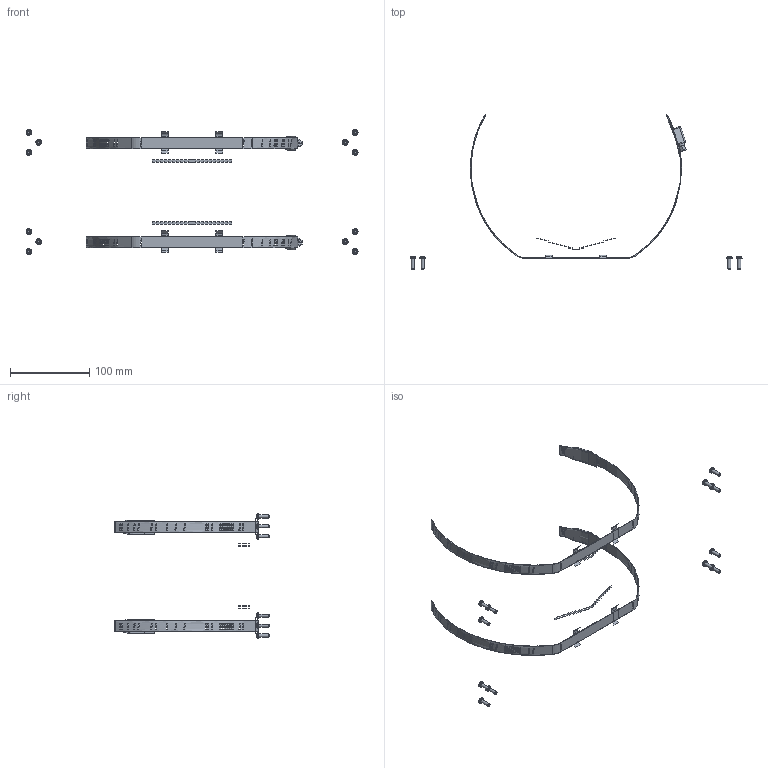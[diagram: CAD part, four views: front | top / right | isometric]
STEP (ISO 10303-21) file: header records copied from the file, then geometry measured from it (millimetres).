
FILE_DESCRIPTION(/* description */ (''),/* implementation_level */ '2;1');
FILE_NAME(/* name */ '4005207.stp',/* time_stamp */ '2016-09-26T10:55:40+02:00',/* author */ (''),/* organization */ (''),/* preprocessor_version */ 'ST-DEVELOPER v16',/* originating_system */ 'SIEMENS PLM Software NX 11.0',/* authorisation */ '');
FILE_SCHEMA (('AUTOMOTIVE_DESIGN { 1 0 10303 214 3 1 1 1 }'));
Length unit declared in the file: millimetre
Products named in the file (1): 4005207_LINKEDEXT_jt
Bounding box: 418.2 x 194.18 x 157.2 mm (x, y, z)
Surface area: 39705 mm2 (no closed solid volume)
Topology: 0 solids, 93 shells, 315 faces, 1849 edges, 1516 vertices
Faces by surface type: plane 178, cylinder 54, torus 28, sphere 24, bspline 24, cone 7
Full cylindrical faces by diameter (mm): 4 x12, 7 x2, 7.2 x12
Entity records: 31236 total; most frequent: CARTESIAN_POINT 15858, DIRECTION 2554, ORIENTED_EDGE 2171, EDGE_CURVE 1792, VERTEX_POINT 1496, AXIS2_PLACEMENT_3D 1018, B_SPLINE_CURVE_WITH_KNOTS 548, LINE 518
